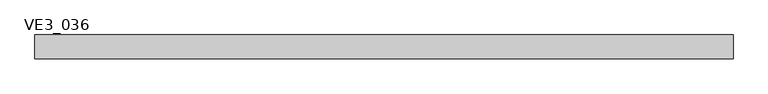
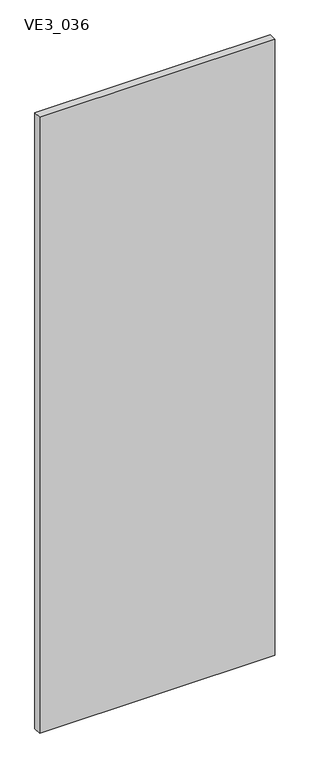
"""IFC4 building model written with IfcOpenShell, lengths in millimetres: plate geometry, TRP_CP_ARC_PF_RE_SE : VE3_036."""

import ifcopenshell
import ifcopenshell.guid

model = None  # the IFC model being written
_history = None  # IfcOwnerHistory: only IFC2X3 demands one
_inside = {}  # id of a spatial element -> (the spatial element, [elements in it])
_under = {}  # id of a project, library or spatial element -> (it, [spatial elements below it])
_declared = {}  # id of a project -> (the project, [libraries it declares])
_typed = {}  # id of a type object -> (the type object, [elements of that type])
_made_of = {}  # id of a material, layer set ... -> (it, [elements and type objects made of it])


def new_model(schema):
    """Start an empty IFC model of exactly this schema.

    Asked for "IFC4X3", IfcOpenShell would pick the latest addendum, in which some entities
    have other attributes; the version numbers below select the first issue.
    IFC2X3 requires an IfcOwnerHistory on every rooted entity: one is made here for all.
    """
    global model, _history
    if schema == "IFC4X3":
        model = ifcopenshell.file(schema_version=(4, 3, 0, 0))
    else:
        model = ifcopenshell.file(schema=schema)
    _inside.clear()
    _under.clear()
    _declared.clear()
    _typed.clear()
    _made_of.clear()
    _history = None
    if model.schema == "IFC2X3":
        org = make("IfcOrganization", Name="unknown")
        user = make(
            "IfcPersonAndOrganization",
            ThePerson=make("IfcPerson", FamilyName="unknown"),
            TheOrganization=org,
        )
        app = make(
            "IfcApplication",
            ApplicationDeveloper=org,
            Version="unknown",
            ApplicationFullName="unknown",
            ApplicationIdentifier="unknown",
        )
        _history = make(
            "IfcOwnerHistory",
            OwningUser=user,
            OwningApplication=app,
            ChangeAction="ADDED",
            CreationDate=0,
        )
    return model


def make(cls, **values):
    """One entity of the class cls with the attributes given. An attribute that is None is left unset."""
    return model.create_entity(
        cls, **{name: value for name, value in values.items() if value is not None}
    )


def rooted(cls, **values):
    """An entity with a GlobalId (a new one), such as an element, a storey or a relation."""
    return make(cls, GlobalId=ifcopenshell.guid.new(), OwnerHistory=_history, **values)


def si_unit(unit_type, name, prefix=None):
    """IfcSIUnit, for example si_unit("LENGTHUNIT", "METRE", prefix="MILLI")."""
    return make("IfcSIUnit", UnitType=unit_type, Prefix=prefix, Name=name)


def assignment(units):
    """IfcUnitAssignment: the units of a project."""
    return None if units is None else make("IfcUnitAssignment", Units=units)


def point(xyz):
    """IfcCartesianPoint."""
    return None if xyz is None else make("IfcCartesianPoint", Coordinates=xyz)


def direction(xyz):
    """IfcDirection."""
    return None if xyz is None else make("IfcDirection", DirectionRatios=xyz)


def frame(location, z_axis=None, x_axis=None):
    """IfcAxis2Placement3D, a coordinate frame: its origin and axes. An axis left out is left unset."""
    return make(
        "IfcAxis2Placement3D",
        Location=point(location),
        Axis=direction(z_axis),
        RefDirection=direction(x_axis),
    )


def origin():
    """The frame at (0, 0, 0) with its axes left unset."""
    return frame((0.0, 0.0, 0.0))


def place(relative_to, where):
    """IfcLocalPlacement: puts the frame where relative to a parent placement (None: the world)."""
    return make(
        "IfcLocalPlacement", PlacementRelTo=relative_to, RelativePlacement=where
    )


def context(
    kind, dimensions, precision=None, world=None, true_north=None, identifier=None
):
    """IfcGeometricRepresentationContext, for example the 3D "Model" context."""
    return make(
        "IfcGeometricRepresentationContext",
        ContextIdentifier=identifier,
        ContextType=kind,
        CoordinateSpaceDimension=dimensions,
        Precision=precision,
        WorldCoordinateSystem=world,
        TrueNorth=true_north,
    )


def project(units=None, contexts=None):
    """IfcProject with its units and contexts."""
    return rooted(
        "IfcProject",
        Name="project",
        RepresentationContexts=contexts,
        UnitsInContext=assignment(units),
    )


def spatial(cls, under=None, at=None, **own):
    """A site, building, storey or space (cls), placed at a placement, below another one or the project."""
    s = rooted(cls, ObjectPlacement=at, **own)
    if under is not None:
        _under.setdefault(under.id(), (under, []))[1].append(s)
    return s


def polyline(points):
    """IfcPolyline through the points."""
    return make("IfcPolyline", Points=[point(p) for p in points])


def outline(outer, holes=None, kind="AREA"):
    """IfcArbitraryClosedProfileDef: a profile drawn as a closed curve; with holes, ...WithVoids."""
    if holes is None:
        return make("IfcArbitraryClosedProfileDef", ProfileType=kind, OuterCurve=outer)
    return make(
        "IfcArbitraryProfileDefWithVoids",
        ProfileType=kind,
        OuterCurve=outer,
        InnerCurves=holes,
    )


def extrude(swept, where, along, depth):
    """IfcExtrudedAreaSolid: the profile swept, set in the frame where, extruded along a direction by depth."""
    return make(
        "IfcExtrudedAreaSolid",
        SweptArea=swept,
        Position=where,
        ExtrudedDirection=direction(along),
        Depth=depth,
    )


def shape(context_of_items, identifier, shape_type, items):
    """IfcShapeRepresentation: the items that make up one representation, for example the "Body"."""
    return make(
        "IfcShapeRepresentation",
        ContextOfItems=context_of_items,
        RepresentationIdentifier=identifier,
        RepresentationType=shape_type,
        Items=items,
    )


def source(mapping_origin, context_of_items, identifier, shape_type, items):
    """IfcRepresentationMap: a shape defined once, which mapped items show again and again."""
    return make(
        "IfcRepresentationMap",
        MappingOrigin=mapping_origin,
        MappedRepresentation=shape(context_of_items, identifier, shape_type, items),
    )


def transform(
    local_origin,
    x_axis=None,
    y_axis=None,
    z_axis=None,
    scale=None,
    scale2=None,
    scale3=None,
    uniform=True,
):
    """IfcCartesianTransformationOperator3D, or its non-uniform kind. x_axis, y_axis, z_axis: its Axis1, 2, 3."""
    if uniform:
        return make(
            "IfcCartesianTransformationOperator3D",
            Axis1=direction(x_axis),
            Axis2=direction(y_axis),
            LocalOrigin=point(local_origin),
            Scale=scale,
            Axis3=direction(z_axis),
        )
    return make(
        "IfcCartesianTransformationOperator3DnonUniform",
        Axis1=direction(x_axis),
        Axis2=direction(y_axis),
        LocalOrigin=point(local_origin),
        Scale=scale,
        Axis3=direction(z_axis),
        Scale2=scale2,
        Scale3=scale3,
    )


def mapped(mapping_source, mapping_target):
    """IfcMappedItem: shows the shape of a source again, moved by a transform."""
    return make(
        "IfcMappedItem", MappingSource=mapping_source, MappingTarget=mapping_target
    )


def made_of(thing, what):
    """Note that an element or type object is made of a material, layer set ...; save() writes the relation."""
    if what is not None:
        _made_of.setdefault(what.id(), (what, []))[1].append(thing)
    return thing


def element(
    cls,
    number,
    at=None,
    inside=None,
    cuts=None,
    type_object=None,
    material=None,
    context=None,
    identifier="Body",
    shape_type=None,
    held_by="IfcProductDefinitionShape",
    body=None,
    shapes=None,
    **own,
):
    """One element of the class cls, such as IfcWall. Its Tag is "e" and its number.

    at: its placement. inside: the storey or other place that contains it. cuts: it is an
    opening in that element (IfcRelVoidsElement). A single representation is given by context,
    identifier, shape_type and body (its items); several are given by shapes. held_by: the class
    of the entity that holds the representations. save() writes the other relations.
    """
    e = rooted(cls, Tag="e%d" % number, ObjectPlacement=at, **own)
    if body is not None:
        shapes = [shape(context, identifier, shape_type, body)]
    if shapes is not None:
        e.Representation = make(held_by, Representations=shapes)
    if inside is not None:
        _inside.setdefault(inside.id(), (inside, []))[1].append(e)
    if cuts is not None:
        rooted(
            "IfcRelVoidsElement", RelatingBuildingElement=cuts, RelatedOpeningElement=e
        )
    if type_object is not None:
        _typed.setdefault(type_object.id(), (type_object, []))[1].append(e)
    return made_of(e, material)


def aggregate(whole, parts):
    """IfcRelAggregates: a whole, such as a stair, and the parts it consists of."""
    return rooted("IfcRelAggregates", RelatingObject=whole, RelatedObjects=parts)


def save(model, path):
    """Write the relations noted so far, then the file.

    IfcRelAggregates (storeys below a building ...), IfcRelContainedInSpatialStructure (elements
    in a storey), IfcRelDefinesByType, IfcRelAssociatesMaterial and IfcRelDeclares: one each for
    every whole, place, type object, material and project.
    """
    for whole, parts in _under.values():
        aggregate(whole, parts)
    for where, things in _inside.values():
        rooted(
            "IfcRelContainedInSpatialStructure",
            RelatedElements=things,
            RelatingStructure=where,
        )
    for kind, things in _typed.values():
        rooted("IfcRelDefinesByType", RelatedObjects=things, RelatingType=kind)
    for what, things in _made_of.values():
        rooted("IfcRelAssociatesMaterial", RelatedObjects=things, RelatingMaterial=what)
    for by, libraries in _declared.values():
        rooted("IfcRelDeclares", RelatingContext=by, RelatedDefinitions=libraries)
    model.write(path)


def ve3_036_0b4cc54c(model_context):
    return source(origin(), model_context, "Body", "SweptSolid", [
        extrude(outline(polyline([(530.0, 18.0), (530.0, -18.0), (-530.0, -18.0), (-530.0, 18.0), (530.0, 18.0)])), frame((0.0, 0.0, -3.1739529), z_axis=(0.0, 0.0, 1.0), x_axis=(1.0, 0.0, 0.0)), (0.0, 0.0, 1.0), 2933.1739529),
    ])


if __name__ == "__main__":
    model = new_model("IFC4")
    model_context = context("Model", 3, world=origin())
    ifc_project = project(units=[si_unit("LENGTHUNIT", "METRE", prefix="MILLI")], contexts=[model_context])
    site = spatial("IfcSite", under=ifc_project)
    building = spatial("IfcBuilding", under=site)
    placement = place(None, origin())
    ve3_036_shape = ve3_036_0b4cc54c(model_context)
    element("IfcPlate", 1, ObjectType="TRP_CP_ARC_PF_RE_SE : VE3_036", at=placement, inside=building, context=model_context, shape_type="MappedRepresentation", body=[
        mapped(ve3_036_shape, transform((0.0, 0.0, 0.0), x_axis=(1.0, 0.0, 0.0), y_axis=(0.0, 1.0, 0.0), z_axis=(0.0, 0.0, 1.0))),
    ])
    save(model, "model.ifc")
